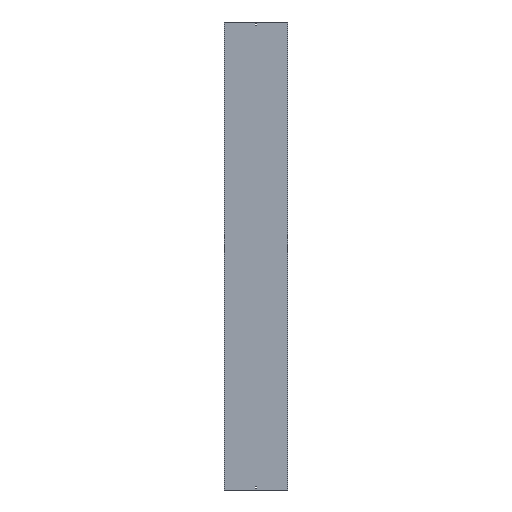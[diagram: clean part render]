
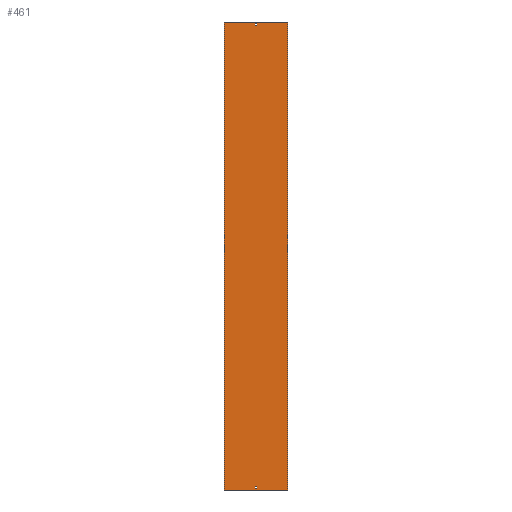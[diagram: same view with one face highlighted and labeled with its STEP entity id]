
A CAD part, front view. The second image highlights one B-rep face of the part: STEP entity #461.
In plain terms, the highlighted planar face has unit normal (0, -1, 0).
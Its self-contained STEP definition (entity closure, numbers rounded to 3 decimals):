
#2 = VERTEX_POINT ( 'NONE', #924 ) ;
#20 = DIRECTION ( 'NONE',  ( 0., 0., 1. ) ) ;
#23 = DIRECTION ( 'NONE',  ( 0., 0., -1. ) ) ;
#31 = DIRECTION ( 'NONE',  ( -1., 0., 0. ) ) ;
#42 = LINE ( 'NONE', #1587, #145 ) ;
#79 = LINE ( 'NONE', #1249, #371 ) ;
#88 = VECTOR ( 'NONE', #657, 1000. ) ;
#102 = CARTESIAN_POINT ( 'NONE',  ( -202., 0., -1500. ) ) ;
#123 = DIRECTION ( 'NONE',  ( 1., 0., 0. ) ) ;
#124 = EDGE_LOOP ( 'NONE', ( #305, #1668, #368, #1235 ) ) ;
#145 = VECTOR ( 'NONE', #23, 1000. ) ;
#153 = VERTEX_POINT ( 'NONE', #1270 ) ;
#162 = CARTESIAN_POINT ( 'NONE',  ( 3.25, 0., -1479. ) ) ;
#179 = VERTEX_POINT ( 'NONE', #1650 ) ;
#187 = VERTEX_POINT ( 'NONE', #1657 ) ;
#242 = CARTESIAN_POINT ( 'NONE',  ( 3.25, 0., -1488. ) ) ;
#259 = LINE ( 'NONE', #1014, #88 ) ;
#305 = ORIENTED_EDGE ( 'NONE', *, *, #1004, .T. ) ;
#310 = EDGE_CURVE ( 'NONE', #1021, #187, #1220, .T. ) ;
#350 = DIRECTION ( 'NONE',  ( 1., 0., 0. ) ) ;
#359 = FACE_OUTER_BOUND ( 'NONE', #124, .T. ) ;
#368 = ORIENTED_EDGE ( 'NONE', *, *, #894, .F. ) ;
#371 = VECTOR ( 'NONE', #1391, 1000. ) ;
#398 = VECTOR ( 'NONE', #20, 1000. ) ;
#399 = ORIENTED_EDGE ( 'NONE', *, *, #817, .T. ) ;
#415 = CARTESIAN_POINT ( 'NONE',  ( 3.25, 0., 1488. ) ) ;
#432 = CARTESIAN_POINT ( 'NONE',  ( 3.25, 0., 1488. ) ) ;
#439 = CARTESIAN_POINT ( 'NONE',  ( 202., 0., 1500. ) ) ;
#445 = ORIENTED_EDGE ( 'NONE', *, *, #310, .F. ) ;
#448 = EDGE_CURVE ( 'NONE', #1183, #1617, #1404, .T. ) ;
#460 = LINE ( 'NONE', #432, #1143 ) ;
#461 = ADVANCED_FACE ( 'NONE', ( #359, #888, #499 ), #1126, .F. ) ;
#499 = FACE_BOUND ( 'NONE', #895, .T. ) ;
#521 = ORIENTED_EDGE ( 'NONE', *, *, #1161, .F. ) ;
#522 = LINE ( 'NONE', #1430, #398 ) ;
#549 = CARTESIAN_POINT ( 'NONE',  ( -3.25, 0., -1479. ) ) ;
#553 = VECTOR ( 'NONE', #1423, 1000. ) ;
#607 = EDGE_CURVE ( 'NONE', #2, #713, #522, .T. ) ;
#608 = VECTOR ( 'NONE', #31, 1000. ) ;
#629 = LINE ( 'NONE', #1295, #553 ) ;
#652 = ORIENTED_EDGE ( 'NONE', *, *, #1194, .F. ) ;
#657 = DIRECTION ( 'NONE',  ( 1., 0., 0. ) ) ;
#709 = ORIENTED_EDGE ( 'NONE', *, *, #448, .F. ) ;
#713 = VERTEX_POINT ( 'NONE', #549 ) ;
#725 = CARTESIAN_POINT ( 'NONE',  ( -202., 0., 1500. ) ) ;
#793 = CARTESIAN_POINT ( 'NONE',  ( -202., 0., 1500. ) ) ;
#817 = EDGE_CURVE ( 'NONE', #870, #2, #1383, .T. ) ;
#840 = DIRECTION ( 'NONE',  ( 1., 0., 0. ) ) ;
#846 = EDGE_CURVE ( 'NONE', #1165, #870, #79, .T. ) ;
#870 = VERTEX_POINT ( 'NONE', #242 ) ;
#888 = FACE_BOUND ( 'NONE', #1135, .T. ) ;
#894 = EDGE_CURVE ( 'NONE', #179, #1545, #1273, .T. ) ;
#895 = EDGE_LOOP ( 'NONE', ( #1237, #1374, #1501, #399 ) ) ;
#924 = CARTESIAN_POINT ( 'NONE',  ( -3.25, 0., -1488. ) ) ;
#963 = DIRECTION ( 'NONE',  ( 0., 0., 1. ) ) ;
#973 = EDGE_CURVE ( 'NONE', #713, #1165, #259, .T. ) ;
#990 = DIRECTION ( 'NONE',  ( -1., 0., 0. ) ) ;
#1004 = EDGE_CURVE ( 'NONE', #1248, #153, #1207, .T. ) ;
#1011 = VECTOR ( 'NONE', #840, 1000. ) ;
#1014 = CARTESIAN_POINT ( 'NONE',  ( -3.25, 0., -1479. ) ) ;
#1021 = VERTEX_POINT ( 'NONE', #415 ) ;
#1126 = PLANE ( 'NONE',  #1531 ) ;
#1135 = EDGE_LOOP ( 'NONE', ( #709, #652, #445, #521 ) ) ;
#1143 = VECTOR ( 'NONE', #963, 1000. ) ;
#1161 = EDGE_CURVE ( 'NONE', #1617, #1021, #460, .T. ) ;
#1165 = VERTEX_POINT ( 'NONE', #162 ) ;
#1183 = VERTEX_POINT ( 'NONE', #1334 ) ;
#1187 = CARTESIAN_POINT ( 'NONE',  ( -3.25, 0., 1488. ) ) ;
#1194 = EDGE_CURVE ( 'NONE', #187, #1183, #1325, .T. ) ;
#1205 = DIRECTION ( 'NONE',  ( 0., 0., -1. ) ) ;
#1207 = LINE ( 'NONE', #1609, #1011 ) ;
#1220 = LINE ( 'NONE', #1352, #608 ) ;
#1235 = ORIENTED_EDGE ( 'NONE', *, *, #1485, .T. ) ;
#1237 = ORIENTED_EDGE ( 'NONE', *, *, #607, .T. ) ;
#1248 = VERTEX_POINT ( 'NONE', #102 ) ;
#1249 = CARTESIAN_POINT ( 'NONE',  ( 3.25, 0., -1488. ) ) ;
#1270 = CARTESIAN_POINT ( 'NONE',  ( 202., 0., -1500. ) ) ;
#1273 = LINE ( 'NONE', #793, #1631 ) ;
#1295 = CARTESIAN_POINT ( 'NONE',  ( -202., 0., 1500. ) ) ;
#1325 = LINE ( 'NONE', #1187, #1366 ) ;
#1334 = CARTESIAN_POINT ( 'NONE',  ( -3.25, 0., 1479. ) ) ;
#1352 = CARTESIAN_POINT ( 'NONE',  ( -3.25, 0., 1488. ) ) ;
#1366 = VECTOR ( 'NONE', #1205, 1000. ) ;
#1374 = ORIENTED_EDGE ( 'NONE', *, *, #973, .T. ) ;
#1375 = CARTESIAN_POINT ( 'NONE',  ( -3.25, 0., -1488. ) ) ;
#1383 = LINE ( 'NONE', #1375, #1400 ) ;
#1391 = DIRECTION ( 'NONE',  ( 0., 0., -1. ) ) ;
#1400 = VECTOR ( 'NONE', #990, 1000. ) ;
#1404 = LINE ( 'NONE', #1509, #1504 ) ;
#1423 = DIRECTION ( 'NONE',  ( 0., 0., -1. ) ) ;
#1430 = CARTESIAN_POINT ( 'NONE',  ( -3.25, 0., -1488. ) ) ;
#1485 = EDGE_CURVE ( 'NONE', #179, #1248, #629, .T. ) ;
#1501 = ORIENTED_EDGE ( 'NONE', *, *, #846, .T. ) ;
#1504 = VECTOR ( 'NONE', #350, 1000. ) ;
#1509 = CARTESIAN_POINT ( 'NONE',  ( -3.25, 0., 1479. ) ) ;
#1531 = AXIS2_PLACEMENT_3D ( 'NONE', #725, #1642, #1627 ) ;
#1532 = EDGE_CURVE ( 'NONE', #1545, #153, #42, .T. ) ;
#1545 = VERTEX_POINT ( 'NONE', #439 ) ;
#1587 = CARTESIAN_POINT ( 'NONE',  ( 202., 0., 1500. ) ) ;
#1597 = CARTESIAN_POINT ( 'NONE',  ( 3.25, 0., 1479. ) ) ;
#1609 = CARTESIAN_POINT ( 'NONE',  ( -202., 0., -1500. ) ) ;
#1617 = VERTEX_POINT ( 'NONE', #1597 ) ;
#1627 = DIRECTION ( 'NONE',  ( -1., 0., 0. ) ) ;
#1631 = VECTOR ( 'NONE', #123, 1000. ) ;
#1642 = DIRECTION ( 'NONE',  ( 0., 1., 0. ) ) ;
#1650 = CARTESIAN_POINT ( 'NONE',  ( -202., 0., 1500. ) ) ;
#1657 = CARTESIAN_POINT ( 'NONE',  ( -3.25, 0., 1488. ) ) ;
#1668 = ORIENTED_EDGE ( 'NONE', *, *, #1532, .F. ) ;
